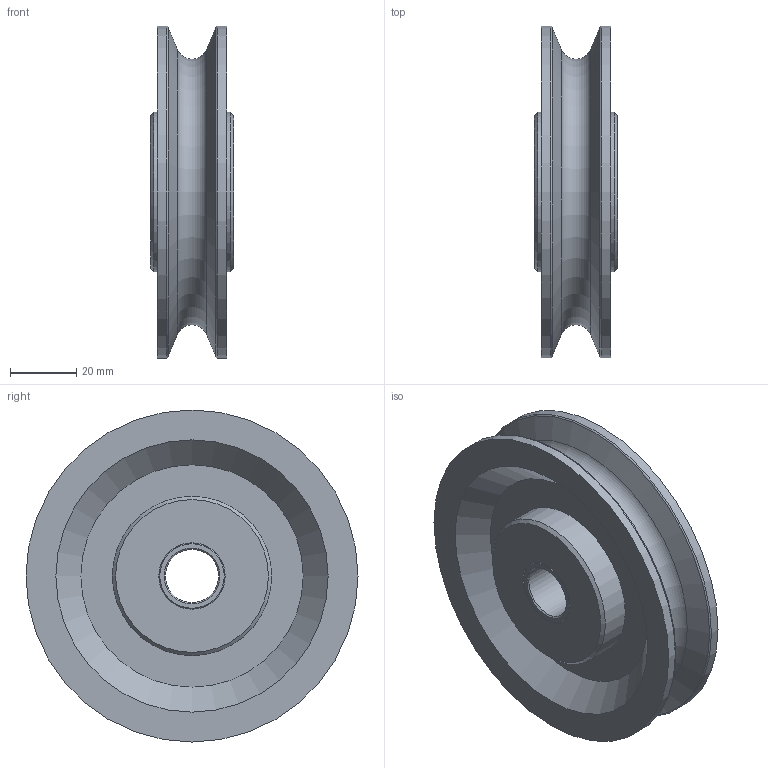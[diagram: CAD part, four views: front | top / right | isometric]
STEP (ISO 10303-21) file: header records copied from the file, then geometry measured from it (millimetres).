
FILE_DESCRIPTION(/* description */ ('Seilrolle ø100 VA Buchse komplett'),/* implementation_level */ '2;1');
FILE_NAME(/* name */ 'Z:\Workspace\03 Seilrollen\1.501 Seilrollen VA Gleitlager\1.501.03 Seilrolle ø100 VA Buchse\1.501.03 Seilrolle ø100 VA Buchse komplett.stp',/* time_stamp */ '2021-10-26T10:31:16+02:00',/* author */ ('cad-user'),/* organization */ (''),/* preprocessor_version */ 'ST-DEVELOPER v18',/* originating_system */ 'Autodesk Inventor 2020',/* authorisation */ '');
FILE_SCHEMA (('AUTOMOTIVE_DESIGN { 1 0 10303 214 3 1 1 }'));
Length unit declared in the file: millimetre
Products named in the file (3): 1.501.03 Seilrolle ø100 VA Buchse komplett; 1.501.03 Seilrolle ø100 VA Buchse; 162025BP25
Assembly tree (2 placements, depth 2):
  1.501.03 Seilrolle ø100 VA Buchse komplett
    1.501.03 Seilrolle ø100 VA Buchse
    162025BP25
Bounding box: 25 x 100 x 100 mm (x, y, z)
Volume: 99154.4 mm3; surface area: 33093.4 mm2
Topology: 2 solids, 2 shells, 28 faces, 80 edges, 60 vertices
Faces by surface type: cone 10, plane 8, cylinder 7, torus 3
Full cylindrical faces by diameter (mm): 16 x1, 20 x2, 48 x2, 100 x2
Entity records: 1109 total; most frequent: DIRECTION 209, CARTESIAN_POINT 173, ORIENTED_EDGE 160, AXIS2_PLACEMENT_3D 96, EDGE_CURVE 80, CIRCLE 63, VERTEX_POINT 60, EDGE_LOOP 36
